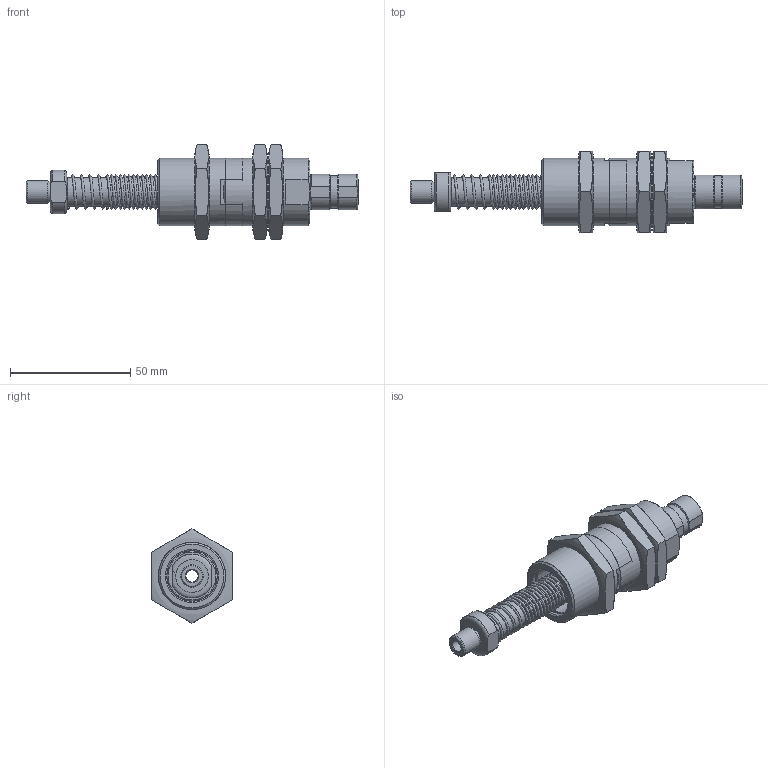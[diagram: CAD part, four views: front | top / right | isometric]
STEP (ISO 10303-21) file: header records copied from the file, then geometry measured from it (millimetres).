
FILE_DESCRIPTION( ( 'Unknown' ), '1' );
FILE_NAME( 'C:/Documents and Settings/Owner/官帕 拳搁/LEVEL SPRING HOMEPAGE/L18 Series/LBX1850T/LBX1850T.stp', 'Unknown', ( 'Unknown' ), ( 'Unknown' ), 'PSStep 10.0', 'Unknown', ' ' );
FILE_SCHEMA( ( 'AUTOMOTIVE_DESIGN { 1 0 10303 214 1 1 1 1 }' ) );
Length unit declared in the file: millimetre
Products named in the file (8): Assem1; SHA-50_0; NIPPLE_0; SLIDE BUSH_0; COVER_0; NUT_0; LBX UPPER; spring
Bounding box: 138 x 34 x 39.26 mm (x, y, z)
Surface area: 44147.8 mm2 (no closed solid volume)
Topology: 0 solids, 201 shells, 201 faces, 723 edges, 618 vertices
Faces by surface type: plane 80, cylinder 57, cone 34, torus 20, revolution 8, bspline 2
Full cylindrical faces by diameter (mm): 5 x4, 8.5 x4, 8.8 x4, 9.5 x2, 9.8 x8, 12 x2, 12.2 x6, 13.5 x2, 20.9 x2, 21 x4, 23 x2, 28 x5
Entity records: 6828 total; most frequent: CARTESIAN_POINT 3456, DIRECTION 544, ORIENTED_EDGE 276, EDGE_CURVE 276, VERTEX_POINT 276, AXIS2_PLACEMENT_3D 244, FACE_BOUND 166, EDGE_LOOP 166
